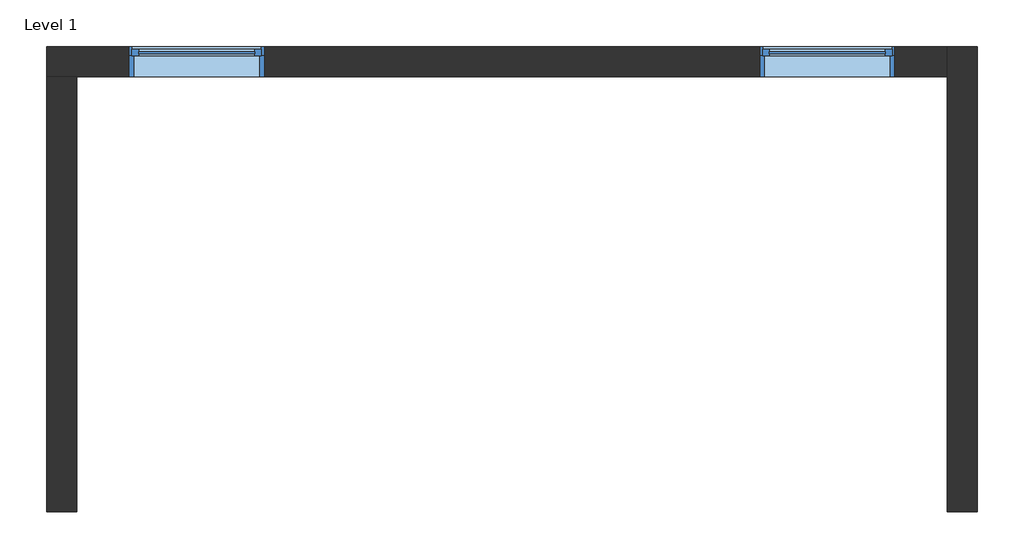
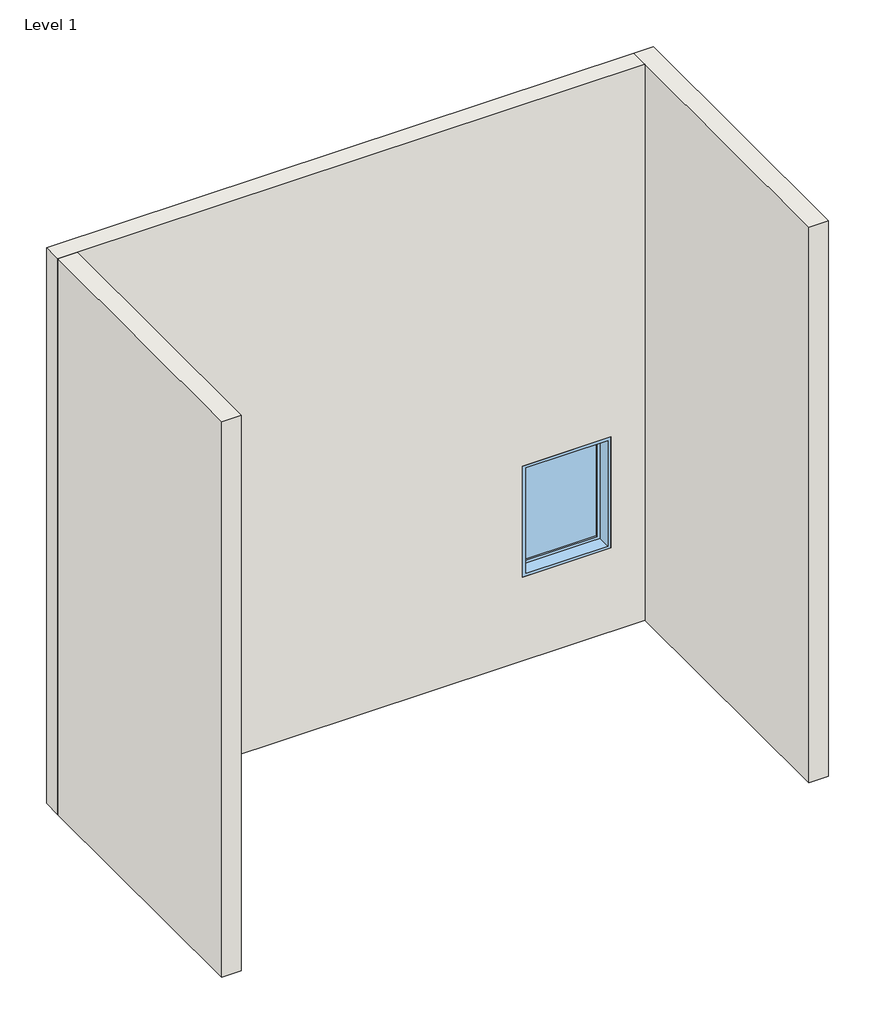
# One storey: 3 walls, 2 windows.
"""IFC4 building model written with IfcOpenShell, lengths in millimetres."""

import ifcopenshell
import ifcopenshell.guid

model = None  # the IFC model being written
_history = None  # IfcOwnerHistory: only IFC2X3 demands one
_inside = {}  # id of a spatial element -> (the spatial element, [elements in it])
_under = {}  # id of a project, library or spatial element -> (it, [spatial elements below it])
_declared = {}  # id of a project -> (the project, [libraries it declares])
_typed = {}  # id of a type object -> (the type object, [elements of that type])
_made_of = {}  # id of a material, layer set ... -> (it, [elements and type objects made of it])


def new_model(schema):
    """Start an empty IFC model of exactly this schema.

    Asked for "IFC4X3", IfcOpenShell would pick the latest addendum, in which some entities
    have other attributes; the version numbers below select the first issue.
    IFC2X3 requires an IfcOwnerHistory on every rooted entity: one is made here for all.
    """
    global model, _history
    if schema == "IFC4X3":
        model = ifcopenshell.file(schema_version=(4, 3, 0, 0))
    else:
        model = ifcopenshell.file(schema=schema)
    _inside.clear()
    _under.clear()
    _declared.clear()
    _typed.clear()
    _made_of.clear()
    _history = None
    if model.schema == "IFC2X3":
        org = make("IfcOrganization", Name="unknown")
        user = make(
            "IfcPersonAndOrganization",
            ThePerson=make("IfcPerson", FamilyName="unknown"),
            TheOrganization=org,
        )
        app = make(
            "IfcApplication",
            ApplicationDeveloper=org,
            Version="unknown",
            ApplicationFullName="unknown",
            ApplicationIdentifier="unknown",
        )
        _history = make(
            "IfcOwnerHistory",
            OwningUser=user,
            OwningApplication=app,
            ChangeAction="ADDED",
            CreationDate=0,
        )
    return model


def make(cls, **values):
    """One entity of the class cls with the attributes given. An attribute that is None is left unset."""
    return model.create_entity(
        cls, **{name: value for name, value in values.items() if value is not None}
    )


def rooted(cls, **values):
    """An entity with a GlobalId (a new one), such as an element, a storey or a relation."""
    return make(cls, GlobalId=ifcopenshell.guid.new(), OwnerHistory=_history, **values)


def si_unit(unit_type, name, prefix=None):
    """IfcSIUnit, for example si_unit("LENGTHUNIT", "METRE", prefix="MILLI")."""
    return make("IfcSIUnit", UnitType=unit_type, Prefix=prefix, Name=name)


def assignment(units):
    """IfcUnitAssignment: the units of a project."""
    return None if units is None else make("IfcUnitAssignment", Units=units)


def point(xyz):
    """IfcCartesianPoint."""
    return None if xyz is None else make("IfcCartesianPoint", Coordinates=xyz)


def direction(xyz):
    """IfcDirection."""
    return None if xyz is None else make("IfcDirection", DirectionRatios=xyz)


def frame(location, z_axis=None, x_axis=None):
    """IfcAxis2Placement3D, a coordinate frame: its origin and axes. An axis left out is left unset."""
    return make(
        "IfcAxis2Placement3D",
        Location=point(location),
        Axis=direction(z_axis),
        RefDirection=direction(x_axis),
    )


def origin():
    """The frame at (0, 0, 0) with its axes left unset."""
    return frame((0.0, 0.0, 0.0))


def origin_with_axes():
    """The frame at (0, 0, 0) with the z axis (0, 0, 1) and the x axis (1, 0, 0) written out."""
    return frame((0.0, 0.0, 0.0), z_axis=(0.0, 0.0, 1.0), x_axis=(1.0, 0.0, 0.0))


def place(relative_to, where):
    """IfcLocalPlacement: puts the frame where relative to a parent placement (None: the world)."""
    return make(
        "IfcLocalPlacement", PlacementRelTo=relative_to, RelativePlacement=where
    )


def context(
    kind, dimensions, precision=None, world=None, true_north=None, identifier=None
):
    """IfcGeometricRepresentationContext, for example the 3D "Model" context."""
    return make(
        "IfcGeometricRepresentationContext",
        ContextIdentifier=identifier,
        ContextType=kind,
        CoordinateSpaceDimension=dimensions,
        Precision=precision,
        WorldCoordinateSystem=world,
        TrueNorth=true_north,
    )


def project(units=None, contexts=None):
    """IfcProject with its units and contexts."""
    return rooted(
        "IfcProject",
        Name="project",
        RepresentationContexts=contexts,
        UnitsInContext=assignment(units),
    )


def spatial(cls, under=None, at=None, **own):
    """A site, building, storey or space (cls), placed at a placement, below another one or the project."""
    s = rooted(cls, ObjectPlacement=at, **own)
    if under is not None:
        _under.setdefault(under.id(), (under, []))[1].append(s)
    return s


def polyline(points):
    """IfcPolyline through the points."""
    return make("IfcPolyline", Points=[point(p) for p in points])


def outline(outer, holes=None, kind="AREA"):
    """IfcArbitraryClosedProfileDef: a profile drawn as a closed curve; with holes, ...WithVoids."""
    if holes is None:
        return make("IfcArbitraryClosedProfileDef", ProfileType=kind, OuterCurve=outer)
    return make(
        "IfcArbitraryProfileDefWithVoids",
        ProfileType=kind,
        OuterCurve=outer,
        InnerCurves=holes,
    )


def extrude(swept, where, along, depth):
    """IfcExtrudedAreaSolid: the profile swept, set in the frame where, extruded along a direction by depth."""
    return make(
        "IfcExtrudedAreaSolid",
        SweptArea=swept,
        Position=where,
        ExtrudedDirection=direction(along),
        Depth=depth,
    )


def faces_of(points, faces, orient=None, outer=None):
    """IfcFace entities. A face is a list of loops; a loop is a list of indices into points, from 0.

    orient and outer hold one flag for each loop. By default every Orientation is true, the
    first loop of a face is its IfcFaceOuterBound and the others are IfcFaceBound.
    """
    made = []
    for i, loops in enumerate(faces):
        bounds = []
        for j, loop in enumerate(loops):
            is_outer = j == 0 if outer is None else outer[i][j]
            bounds.append(
                make(
                    "IfcFaceOuterBound" if is_outer else "IfcFaceBound",
                    Bound=make("IfcPolyLoop", Polygon=[points[k] for k in loop]),
                    Orientation=True if orient is None else orient[i][j],
                )
            )
        made.append(make("IfcFace", Bounds=bounds))
    return made


def faceted_brep(points, faces, orient=None, outer=None, voids=None):
    """IfcFacetedBrep: a solid bounded by flat faces; with voids (closed shells), ...WithVoids."""
    shared = [point(p) for p in points]
    hull = make("IfcClosedShell", CfsFaces=faces_of(shared, faces, orient, outer))
    if voids is None:
        return make("IfcFacetedBrep", Outer=hull)
    return make(
        "IfcFacetedBrepWithVoids",
        Outer=hull,
        Voids=[
            make(cls, CfsFaces=faces_of(shared, fs, o, b)) for cls, fs, o, b in voids
        ],
    )


def shape(context_of_items, identifier, shape_type, items):
    """IfcShapeRepresentation: the items that make up one representation, for example the "Body"."""
    return make(
        "IfcShapeRepresentation",
        ContextOfItems=context_of_items,
        RepresentationIdentifier=identifier,
        RepresentationType=shape_type,
        Items=items,
    )


def source(mapping_origin, context_of_items, identifier, shape_type, items):
    """IfcRepresentationMap: a shape defined once, which mapped items show again and again."""
    return make(
        "IfcRepresentationMap",
        MappingOrigin=mapping_origin,
        MappedRepresentation=shape(context_of_items, identifier, shape_type, items),
    )


def transform(
    local_origin,
    x_axis=None,
    y_axis=None,
    z_axis=None,
    scale=None,
    scale2=None,
    scale3=None,
    uniform=True,
):
    """IfcCartesianTransformationOperator3D, or its non-uniform kind. x_axis, y_axis, z_axis: its Axis1, 2, 3."""
    if uniform:
        return make(
            "IfcCartesianTransformationOperator3D",
            Axis1=direction(x_axis),
            Axis2=direction(y_axis),
            LocalOrigin=point(local_origin),
            Scale=scale,
            Axis3=direction(z_axis),
        )
    return make(
        "IfcCartesianTransformationOperator3DnonUniform",
        Axis1=direction(x_axis),
        Axis2=direction(y_axis),
        LocalOrigin=point(local_origin),
        Scale=scale,
        Axis3=direction(z_axis),
        Scale2=scale2,
        Scale3=scale3,
    )


def mapped(mapping_source, mapping_target):
    """IfcMappedItem: shows the shape of a source again, moved by a transform."""
    return make(
        "IfcMappedItem", MappingSource=mapping_source, MappingTarget=mapping_target
    )


def made_of(thing, what):
    """Note that an element or type object is made of a material, layer set ...; save() writes the relation."""
    if what is not None:
        _made_of.setdefault(what.id(), (what, []))[1].append(thing)
    return thing


def element(
    cls,
    number,
    at=None,
    inside=None,
    cuts=None,
    type_object=None,
    material=None,
    context=None,
    identifier="Body",
    shape_type=None,
    held_by="IfcProductDefinitionShape",
    body=None,
    shapes=None,
    **own,
):
    """One element of the class cls, such as IfcWall. Its Tag is "e" and its number.

    at: its placement. inside: the storey or other place that contains it. cuts: it is an
    opening in that element (IfcRelVoidsElement). A single representation is given by context,
    identifier, shape_type and body (its items); several are given by shapes. held_by: the class
    of the entity that holds the representations. save() writes the other relations.
    """
    e = rooted(cls, Tag="e%d" % number, ObjectPlacement=at, **own)
    if body is not None:
        shapes = [shape(context, identifier, shape_type, body)]
    if shapes is not None:
        e.Representation = make(held_by, Representations=shapes)
    if inside is not None:
        _inside.setdefault(inside.id(), (inside, []))[1].append(e)
    if cuts is not None:
        rooted(
            "IfcRelVoidsElement", RelatingBuildingElement=cuts, RelatedOpeningElement=e
        )
    if type_object is not None:
        _typed.setdefault(type_object.id(), (type_object, []))[1].append(e)
    return made_of(e, material)


def aggregate(whole, parts):
    """IfcRelAggregates: a whole, such as a stair, and the parts it consists of."""
    return rooted("IfcRelAggregates", RelatingObject=whole, RelatedObjects=parts)


def save(model, path):
    """Write the relations noted so far, then the file.

    IfcRelAggregates (storeys below a building ...), IfcRelContainedInSpatialStructure (elements
    in a storey), IfcRelDefinesByType, IfcRelAssociatesMaterial and IfcRelDeclares: one each for
    every whole, place, type object, material and project.
    """
    for whole, parts in _under.values():
        aggregate(whole, parts)
    for where, things in _inside.values():
        rooted(
            "IfcRelContainedInSpatialStructure",
            RelatedElements=things,
            RelatingStructure=where,
        )
    for kind, things in _typed.values():
        rooted("IfcRelDefinesByType", RelatedObjects=things, RelatingType=kind)
    for what, things in _made_of.values():
        rooted("IfcRelAssociatesMaterial", RelatedObjects=things, RelatingMaterial=what)
    for by, libraries in _declared.values():
        rooted("IfcRelDeclares", RelatingContext=by, RelatedDefinitions=libraries)
    model.write(path)


def window_e2841890(model_context):
    return source(origin(), model_context, "Body", "SweptSolid", [
        extrude(outline(polyline([(355.6, 53.975), (-431.8, 53.975), (-431.8, 66.675), (355.6, 66.675), (355.6, 53.975)])), frame((0.0, 0.0, 977.9), z_axis=(0.0, 0.0, 1.0), x_axis=(1.0, 0.0, 0.0)), (0.0, 0.0, 1.0), 1092.2),
        extrude(outline(polyline([(2114.55, -476.25), (933.45, -476.25), (933.45, 400.05), (2114.55, 400.05), (2114.55, -476.25)]), holes=[polyline([(2070.1, -431.8), (2070.1, 355.6), (977.9, 355.6), (977.9, -431.8), (2070.1, -431.8)])]), frame((0.0, 38.1, 0.0), z_axis=(0.0, 1.0, 0.0), x_axis=(0.0, 0.0, 1.0)), (0.0, 0.0, 1.0), 44.45),
        extrude(outline(polyline([(2133.6, -495.3), (914.4, -495.3), (914.4, 419.1), (2133.6, 419.1), (2133.6, -495.3)]), holes=[polyline([(2101.85, -463.55), (2101.85, 387.35), (946.15, 387.35), (946.15, -463.55), (2101.85, -463.55)])]), frame((0.0, -101.6, 0.0), z_axis=(0.0, 1.0, 0.0), x_axis=(0.0, 0.0, 1.0)), (0.0, 0.0, 1.0), 139.7),
        extrude(outline(polyline([(2133.6, 419.1), (2133.6, -495.3), (914.4, -495.3), (914.4, 419.1), (2133.6, 419.1)]), holes=[polyline([(2114.55, 400.05), (933.45, 400.05), (933.45, -476.25), (2114.55, -476.25), (2114.55, 400.05)])]), frame((0.0, 38.1, 0.0), z_axis=(0.0, 1.0, 0.0), x_axis=(0.0, 0.0, 1.0)), (0.0, 0.0, 1.0), 63.5),
    ])


model = new_model("IFC4")

# Units and contexts
model_context = context("Model", 3, world=origin())
ifc_project = project(units=[si_unit("LENGTHUNIT", "METRE", prefix="MILLI")], contexts=[model_context])

# Site, building, storey
site = spatial("IfcSite", under=ifc_project)
building = spatial("IfcBuilding", under=site)
storey = spatial("IfcBuildingStorey", under=building, Name="Level 1", Elevation=0.0)

# Walls
placement = place(None, origin())
element("IfcWall", 1, ObjectType="Generic - 8\"", at=placement, inside=storey, context=model_context, shape_type="Brep", body=[
    faceted_brep([(-1487.706997, 219.0388617, 0.0), (-1284.506997, 219.0388617, 0.0), (4608.293003, 219.0388617, 0.0), (4608.293003, 219.0388617, 6096.0), (-1284.506997, 219.0388617, 6096.0), (-1487.706997, 219.0388617, 6096.0), (-14.506997, 219.0388617, 2133.6), (-14.506997, 219.0388617, 914.4), (-928.906997, 219.0388617, 914.4), (-928.906997, 219.0388617, 2133.6), (4252.693003, 219.0388617, 2133.6), (4252.693003, 219.0388617, 914.4), (3338.293003, 219.0388617, 914.4), (3338.293003, 219.0388617, 2133.6), (-1487.706997, 422.2388617, 0.0), (-1487.706997, 422.2388617, 6096.0), (4608.293003, 422.2388617, 6096.0), (4608.293003, 422.2388617, 0.0), (-14.506997, 422.2388617, 2133.6), (-928.906997, 422.2388617, 2133.6), (-928.906997, 422.2388617, 914.4), (-14.506997, 422.2388617, 914.4), (4252.693003, 422.2388617, 2133.6), (3338.293003, 422.2388617, 2133.6), (3338.293003, 422.2388617, 914.4), (4252.693003, 422.2388617, 914.4)], [[[0, 1, 2, 3, 4, 5], [6, 7, 8, 9], [10, 11, 12, 13]], [[14, 15, 16, 17], [18, 19, 20, 21], [22, 23, 24, 25]], [[2, 1, 0, 14, 17]], [[5, 4, 3, 16, 15]], [[0, 5, 15, 14]], [[3, 2, 17, 16]], [[7, 6, 18, 21]], [[8, 7, 21, 20]], [[9, 8, 20, 19]], [[6, 9, 19, 18]], [[11, 10, 22, 25]], [[12, 11, 25, 24]], [[13, 12, 24, 23]], [[10, 13, 23, 22]]]),
])
element("IfcWall", 2, ObjectType="Generic - 8\"", at=placement, inside=storey, context=model_context, shape_type="SweptSolid", body=[
    extrude(outline(polyline([(-1284.506997, 219.0388617), (-1284.506997, -2727.3611383), (-1487.706997, -2727.3611383), (-1487.706997, 219.0388617), (-1284.506997, 219.0388617)])), origin_with_axes(), (0.0, 0.0, 1.0), 6096.0),
])
element("IfcWall", 3, ObjectType="Generic - 8\"", at=placement, inside=storey, context=model_context, shape_type="Brep", body=[
    faceted_brep([(4608.293003, 422.2388617, 0.0), (4608.293003, 219.0388617, 0.0), (4608.293003, -2727.3611383, 0.0), (4608.293003, -2727.3611383, 6096.0), (4608.293003, 219.0388617, 6096.0), (4608.293003, 422.2388617, 6096.0), (4811.493003, 422.2388617, 0.0), (4811.493003, 422.2388617, 6096.0), (4811.493003, -2727.3611383, 6096.0), (4811.493003, -2727.3611383, 0.0)], [[[0, 1, 2, 3, 4, 5]], [[6, 7, 8, 9]], [[2, 1, 0, 6, 9]], [[3, 2, 9, 8]], [[5, 4, 3, 8, 7]], [[0, 5, 7, 6]]]),
])

# Windows
window_shape = window_e2841890(model_context)
element("IfcWindow", 4, ObjectType="Fixed : 36\" x 48\"", at=placement, inside=storey, context=model_context, shape_type="MappedRepresentation", body=[
    mapped(window_shape, transform((-433.606997, 320.6388617, 0.0), x_axis=(1.0, 0.0, 0.0), y_axis=(0.0, 1.0, 0.0), z_axis=(0.0, 0.0, 1.0))),
])
element("IfcWindow", 5, ObjectType="Fixed : 36\" x 48\"", at=placement, inside=storey, context=model_context, shape_type="MappedRepresentation", body=[
    mapped(window_shape, transform((3833.593003, 320.6388617, 0.0), x_axis=(1.0, 0.0, 0.0), y_axis=(0.0, 1.0, 0.0), z_axis=(0.0, 0.0, 1.0))),
])

save(model, "model.ifc")
